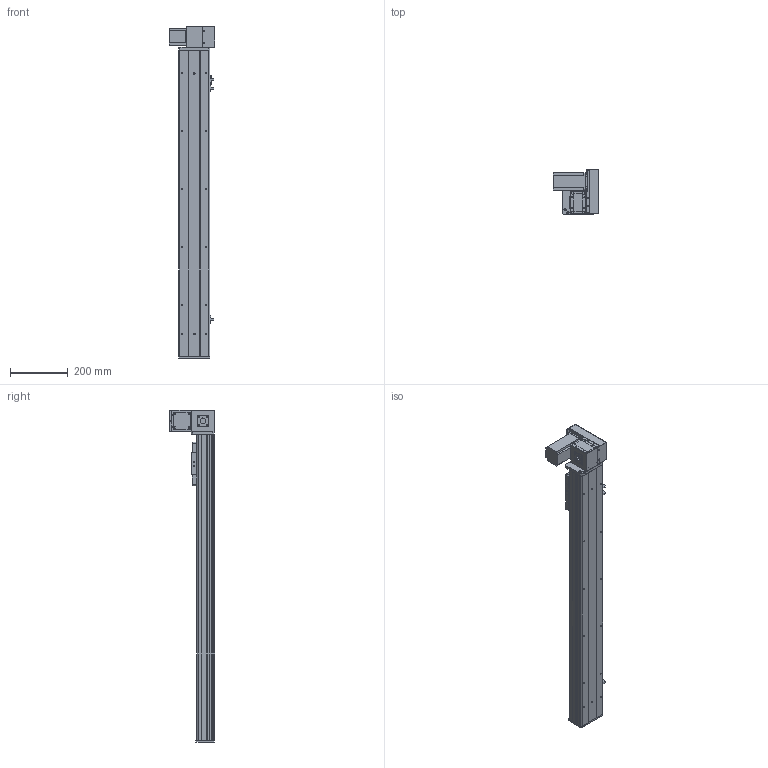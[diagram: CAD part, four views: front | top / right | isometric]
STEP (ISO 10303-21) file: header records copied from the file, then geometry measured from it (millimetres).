
FILE_DESCRIPTION (( 'STEP AP203' ), '1' );
FILE_NAME ('Y10CB-D90-S800-UR-P400W.STEP', '2020-02-16T03:27:36', ( '微软用户' ), ( '微软中国' ), 'SwSTEP 2.0', 'SolidWorks 2017', '' );
FILE_SCHEMA (( 'CONFIG_CONTROL_DESIGN' ));
Length unit declared in the file: millimetre
Products named in the file (18): 0CB-雄赽釱---; Y10CB-D90-S800-UR-P400W; Y10C---詩湍揤啣; 0Cb-俋欶---; 10CB9-掛极; Y10B-々湍喘謫眊楊擘啣--; 10CB-耜裔; 0B-萇儂楊擘啣; Y135C-陔俋离換覜結え-; san松下电机400不带刹车----; Y100-135俋离換覜ん--; 0B-源倛裔啣; Y10B--々湍喘謫眊--666; 0B-埴倛裔啣; Y10B-耜蚾蟀諉啣----; 10CB-詩湍-; 00B-俋欶BM--; Y10CB- 掛极耜裔啣-毀---
Assembly tree (21 placements, depth 2):
  Y10CB-D90-S800-UR-P400W
    0CB-雄赽釱---
    0Cb-俋欶---
    Y10B-々湍喘謫眊楊擘啣--
    0B-萇儂楊擘啣
    san松下电机400不带刹车----
    0B-源倛裔啣
    0B-埴倛裔啣
    10CB-詩湍-
    Y10CB- 掛极耜裔啣-毀---  x2
    Y10C---詩湍揤啣  x2
    10CB9-掛极
    10CB-耜裔
    Y135C-陔俋离換覜結え-
    Y100-135俋离換覜ん--  x3
    Y10B--々湍喘謫眊--666
    Y10B-耜蚾蟀諉啣----
    00B-俋欶BM--
Bounding box: 157 x 155.5 x 1146 mm (x, y, z)
Volume: 2786876.3 mm3; surface area: 1235494 mm2
Topology: 21 solids, 21 shells, 978 faces, 2603 edges, 1706 vertices
Faces by surface type: cylinder 479, plane 475, cone 24
Entity records: 30412 total; most frequent: CARTESIAN_POINT 5321, DIRECTION 4930, ORIENTED_EDGE 4676, EDGE_CURVE 2338, AXIS2_PLACEMENT_3D 1765, VERTEX_POINT 1532, VECTOR 1400, LINE 1400
